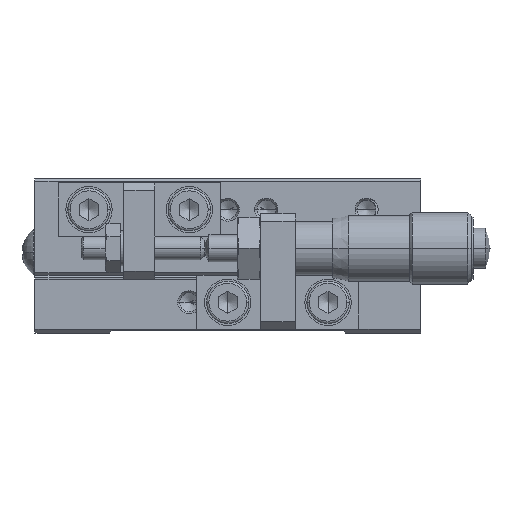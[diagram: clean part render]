
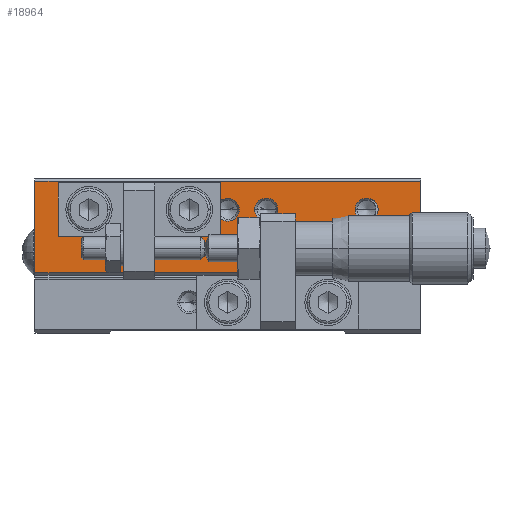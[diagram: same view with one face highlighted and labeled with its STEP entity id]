
A CAD part, left-side view. The second image highlights one B-rep face of the part: STEP entity #18964.
In plain terms, the highlighted planar face has unit normal (-1, 0, 0).
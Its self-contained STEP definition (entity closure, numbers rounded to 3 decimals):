
#777 = CARTESIAN_POINT ( 'NONE',  ( -25., -1.5, -4. ) ) ;
#911 = CARTESIAN_POINT ( 'NONE',  ( -25., 1., -2.882 ) ) ;
#912 = DIRECTION ( 'NONE',  ( 0., 1., 0. ) ) ;
#913 = DIRECTION ( 'NONE',  ( -1., 0., 0. ) ) ;
#914 = CARTESIAN_POINT ( 'NONE',  ( -25., 0., -4. ) ) ;
#915 = AXIS2_PLACEMENT_3D ( 'NONE', #914, #913, #912 ) ;
#916 = CIRCLE ( 'NONE', #915, 1.5 ) ;
#999 = CARTESIAN_POINT ( 'NONE',  ( -25., -3.5, -4. ) ) ;
#1000 = DIRECTION ( 'NONE',  ( 0., 1., 0. ) ) ;
#1001 = DIRECTION ( 'NONE',  ( -1., 0., 0. ) ) ;
#1002 = CARTESIAN_POINT ( 'NONE',  ( -25., -5., -4. ) ) ;
#1003 = AXIS2_PLACEMENT_3D ( 'NONE', #1002, #1001, #1000 ) ;
#1004 = CIRCLE ( 'NONE', #1003, 1.5 ) ;
#1005 = CARTESIAN_POINT ( 'NONE',  ( -25., -6.5, -4. ) ) ;
#1077 = CARTESIAN_POINT ( 'NONE',  ( -25., -19.5, -4. ) ) ;
#1131 = CARTESIAN_POINT ( 'NONE',  ( -25., -16.5, -4. ) ) ;
#1132 = DIRECTION ( 'NONE',  ( 0., 1., 0. ) ) ;
#1133 = DIRECTION ( 'NONE',  ( -1., 0., 0. ) ) ;
#1134 = CARTESIAN_POINT ( 'NONE',  ( -25., -18., -4. ) ) ;
#1135 = AXIS2_PLACEMENT_3D ( 'NONE', #1134, #1133, #1132 ) ;
#1136 = CIRCLE ( 'NONE', #1135, 1.5 ) ;
#4155 = CARTESIAN_POINT ( 'NONE',  ( -25., 25., -0.3 ) ) ;
#4158 = DIRECTION ( 'NONE',  ( 0., 0., 1. ) ) ;
#4159 = VECTOR ( 'NONE', #4158, 1000. ) ;
#4161 = CARTESIAN_POINT ( 'NONE',  ( -25., 25., -12.2 ) ) ;
#4162 = LINE ( 'NONE', #4161, #4159 ) ;
#4166 = CARTESIAN_POINT ( 'NONE',  ( -25., 25., -12.2 ) ) ;
#4900 = PLANE ( 'NONE',  #5045 ) ;
#4905 = FACE_OUTER_BOUND ( 'NONE', #19060, .T. ) ;
#4907 = FACE_BOUND ( 'NONE', #19051, .T. ) ;
#4908 = FACE_BOUND ( 'NONE', #19046, .T. ) ;
#4910 = FACE_BOUND ( 'NONE', #18968, .T. ) ;
#4912 = DIRECTION ( 'NONE',  ( 0., 1., 0. ) ) ;
#4914 = VECTOR ( 'NONE', #4912, 1000. ) ;
#4916 = CARTESIAN_POINT ( 'NONE',  ( -25., -25., -12.2 ) ) ;
#4917 = LINE ( 'NONE', #4916, #4914 ) ;
#4921 = CARTESIAN_POINT ( 'NONE',  ( -25., -25., -12.2 ) ) ;
#4944 = DIRECTION ( 'NONE',  ( 0., 1., 0. ) ) ;
#4945 = DIRECTION ( 'NONE',  ( -1., 0., 0. ) ) ;
#4947 = CARTESIAN_POINT ( 'NONE',  ( -25., 0., -4. ) ) ;
#4949 = AXIS2_PLACEMENT_3D ( 'NONE', #4947, #4945, #4944 ) ;
#4951 = CIRCLE ( 'NONE', #4949, 1.5 ) ;
#5023 = CARTESIAN_POINT ( 'NONE',  ( -25., 22., -6.5 ) ) ;
#5025 = CARTESIAN_POINT ( 'NONE',  ( -25., 1., -5.118 ) ) ;
#5028 = CARTESIAN_POINT ( 'NONE',  ( -25., 1., -6.5 ) ) ;
#5030 = DIRECTION ( 'NONE',  ( 0., 0., 1. ) ) ;
#5032 = VECTOR ( 'NONE', #5030, 1000. ) ;
#5033 = CARTESIAN_POINT ( 'NONE',  ( -25., 1., -6.5 ) ) ;
#5035 = LINE ( 'NONE', #5033, #5032 ) ;
#5040 = DIRECTION ( 'NONE',  ( 0., 1., 0. ) ) ;
#5042 = DIRECTION ( 'NONE',  ( -1., 0., 0. ) ) ;
#5044 = CARTESIAN_POINT ( 'NONE',  ( -25., -25., -12.2 ) ) ;
#5045 = AXIS2_PLACEMENT_3D ( 'NONE', #5044, #5042, #5040 ) ;
#5064 = DIRECTION ( 'NONE',  ( 0., 1., 0. ) ) ;
#5065 = VECTOR ( 'NONE', #5064, 1000. ) ;
#5067 = CARTESIAN_POINT ( 'NONE',  ( -25., -25., -0.3 ) ) ;
#5068 = LINE ( 'NONE', #5067, #5065 ) ;
#5073 = CARTESIAN_POINT ( 'NONE',  ( -25., -25., -0.3 ) ) ;
#5119 = CIRCLE ( 'NONE', #5265, 1.5 ) ;
#5125 = DIRECTION ( 'NONE',  ( 0., 1., 0. ) ) ;
#5127 = DIRECTION ( 'NONE',  ( -1., 0., 0. ) ) ;
#5129 = CARTESIAN_POINT ( 'NONE',  ( -25., -5., -4. ) ) ;
#5130 = AXIS2_PLACEMENT_3D ( 'NONE', #5129, #5127, #5125 ) ;
#5132 = CIRCLE ( 'NONE', #5130, 1.5 ) ;
#5210 = DIRECTION ( 'NONE',  ( 0., 0., 1. ) ) ;
#5211 = VECTOR ( 'NONE', #5210, 1000. ) ;
#5213 = CARTESIAN_POINT ( 'NONE',  ( -25., 1., -6.5 ) ) ;
#5215 = LINE ( 'NONE', #5213, #5211 ) ;
#5219 = CARTESIAN_POINT ( 'NONE',  ( -25., 1., -0.5 ) ) ;
#5221 = DIRECTION ( 'NONE',  ( 0., -1., 0. ) ) ;
#5223 = VECTOR ( 'NONE', #5221, 1000. ) ;
#5225 = CARTESIAN_POINT ( 'NONE',  ( -25., 22., -0.5 ) ) ;
#5226 = LINE ( 'NONE', #5225, #5223 ) ;
#5232 = CARTESIAN_POINT ( 'NONE',  ( -25., 22., -0.5 ) ) ;
#5234 = DIRECTION ( 'NONE',  ( 0., 0., 1. ) ) ;
#5236 = VECTOR ( 'NONE', #5234, 1000. ) ;
#5238 = CARTESIAN_POINT ( 'NONE',  ( -25., 22., -6.5 ) ) ;
#5240 = LINE ( 'NONE', #5238, #5236 ) ;
#5242 = DIRECTION ( 'NONE',  ( 0., -1., 0. ) ) ;
#5244 = VECTOR ( 'NONE', #5242, 1000. ) ;
#5246 = CARTESIAN_POINT ( 'NONE',  ( -25., 22., -6.5 ) ) ;
#5248 = LINE ( 'NONE', #5246, #5244 ) ;
#5253 = DIRECTION ( 'NONE',  ( 0., 0., 1. ) ) ;
#5254 = VECTOR ( 'NONE', #5253, 1000. ) ;
#5255 = CARTESIAN_POINT ( 'NONE',  ( -25., -25., -12.2 ) ) ;
#5257 = LINE ( 'NONE', #5255, #5254 ) ;
#5260 = DIRECTION ( 'NONE',  ( 0., 1., 0. ) ) ;
#5261 = DIRECTION ( 'NONE',  ( -1., 0., 0. ) ) ;
#5263 = CARTESIAN_POINT ( 'NONE',  ( -25., -18., -4. ) ) ;
#5265 = AXIS2_PLACEMENT_3D ( 'NONE', #5263, #5261, #5260 ) ;
#16621 = VERTEX_POINT ( 'NONE', #777 ) ;
#16712 = EDGE_CURVE ( 'NONE', #16621, #16713, #916, .T. ) ;
#16713 = VERTEX_POINT ( 'NONE', #911 ) ;
#16783 = VERTEX_POINT ( 'NONE', #1005 ) ;
#16788 = EDGE_CURVE ( 'NONE', #16783, #16789, #1004, .T. ) ;
#16789 = VERTEX_POINT ( 'NONE', #999 ) ;
#16869 = VERTEX_POINT ( 'NONE', #1077 ) ;
#16871 = EDGE_CURVE ( 'NONE', #16869, #16873, #1136, .T. ) ;
#16873 = VERTEX_POINT ( 'NONE', #1131 ) ;
#18584 = VERTEX_POINT ( 'NONE', #4166 ) ;
#18586 = EDGE_CURVE ( 'NONE', #18584, #18587, #4162, .T. ) ;
#18587 = VERTEX_POINT ( 'NONE', #4155 ) ;
#18947 = EDGE_CURVE ( 'NONE', #18973, #16621, #4951, .T. ) ;
#18960 = VERTEX_POINT ( 'NONE', #4921 ) ;
#18962 = EDGE_CURVE ( 'NONE', #18960, #18584, #4917, .T. ) ;
#18964 = ADVANCED_FACE ( 'NONE', ( #4910, #4908, #4907, #4905 ), #4900, .T. ) ;
#18968 = EDGE_LOOP ( 'NONE', ( #18970, #19069, #19072, #19076, #19081, #19084, #19086 ) ) ;
#18970 = ORIENTED_EDGE ( 'NONE', *, *, #18971, .F. ) ;
#18971 = EDGE_CURVE ( 'NONE', #18972, #18973, #5035, .T. ) ;
#18972 = VERTEX_POINT ( 'NONE', #5028 ) ;
#18973 = VERTEX_POINT ( 'NONE', #5025 ) ;
#18974 = VERTEX_POINT ( 'NONE', #5023 ) ;
#19018 = VERTEX_POINT ( 'NONE', #5073 ) ;
#19020 = ORIENTED_EDGE ( 'NONE', *, *, #19022, .T. ) ;
#19022 = EDGE_CURVE ( 'NONE', #19018, #18587, #5068, .T. ) ;
#19046 = EDGE_LOOP ( 'NONE', ( #19047, #19049 ) ) ;
#19047 = ORIENTED_EDGE ( 'NONE', *, *, #19048, .F. ) ;
#19048 = EDGE_CURVE ( 'NONE', #16789, #16783, #5132, .T. ) ;
#19049 = ORIENTED_EDGE ( 'NONE', *, *, #16788, .F. ) ;
#19051 = EDGE_LOOP ( 'NONE', ( #19053, #19057 ) ) ;
#19053 = ORIENTED_EDGE ( 'NONE', *, *, #19055, .F. ) ;
#19055 = EDGE_CURVE ( 'NONE', #16873, #16869, #5119, .T. ) ;
#19057 = ORIENTED_EDGE ( 'NONE', *, *, #16871, .F. ) ;
#19060 = EDGE_LOOP ( 'NONE', ( #19061, #19062, #19063, #19020 ) ) ;
#19061 = ORIENTED_EDGE ( 'NONE', *, *, #18586, .F. ) ;
#19062 = ORIENTED_EDGE ( 'NONE', *, *, #18962, .F. ) ;
#19063 = ORIENTED_EDGE ( 'NONE', *, *, #19065, .T. ) ;
#19065 = EDGE_CURVE ( 'NONE', #18960, #19018, #5257, .T. ) ;
#19069 = ORIENTED_EDGE ( 'NONE', *, *, #19071, .F. ) ;
#19071 = EDGE_CURVE ( 'NONE', #18974, #18972, #5248, .T. ) ;
#19072 = ORIENTED_EDGE ( 'NONE', *, *, #19073, .T. ) ;
#19073 = EDGE_CURVE ( 'NONE', #18974, #19074, #5240, .T. ) ;
#19074 = VERTEX_POINT ( 'NONE', #5232 ) ;
#19076 = ORIENTED_EDGE ( 'NONE', *, *, #19078, .T. ) ;
#19078 = EDGE_CURVE ( 'NONE', #19074, #19080, #5226, .T. ) ;
#19080 = VERTEX_POINT ( 'NONE', #5219 ) ;
#19081 = ORIENTED_EDGE ( 'NONE', *, *, #19082, .F. ) ;
#19082 = EDGE_CURVE ( 'NONE', #16713, #19080, #5215, .T. ) ;
#19084 = ORIENTED_EDGE ( 'NONE', *, *, #16712, .F. ) ;
#19086 = ORIENTED_EDGE ( 'NONE', *, *, #18947, .F. ) ;
